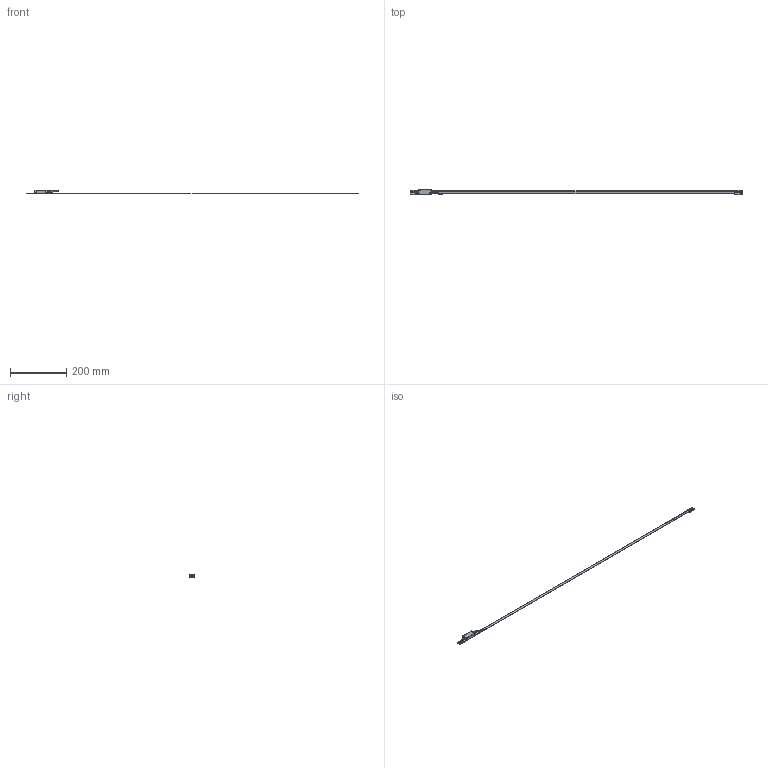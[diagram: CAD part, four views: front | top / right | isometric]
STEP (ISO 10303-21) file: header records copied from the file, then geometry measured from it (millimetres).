
FILE_DESCRIPTION(('Creo Elements/Direct Modeling STEP Export'),'2;1');
FILE_NAME('EXAA-1070.stp','2017-01-11T17:12:18',(''),(''),'Creo Elements/Direct Modeling STEP processor for AP214 (Solid Model)','Creo Elements/Direct Modeling 18.1H 24-Oct-2015 (C) Parametric Technology GmbH','');
FILE_SCHEMA(('AUTOMOTIVE_DESIGN { 1 0 10303 214 1 1 1 1 }'));
Length unit declared in the file: millimetre
Products named in the file (7): CABEZA_EXPOSED; FLEJE_REGLA_EXPOSED_1070; TOPE_FLEJE_PEGADO.1; TOPE_FLEJE_PEGADO
Assembly tree (4 placements, depth 2):
  CABEZA_EXPOSED
    CABEZA_EXPOSED
  FLEJE_REGLA_EXPOSED_1070
    FLEJE_REGLA_EXPOSED_1070
  TOPE_FLEJE_PEGADO
    TOPE_FLEJE_PEGADO.1
  TOPE_FLEJE_PEGADO.1
    TOPE_FLEJE_PEGADO.1
Bounding box: 1176 x 20.7 x 13.1 mm (x, y, z)
Volume: 16550 mm3; surface area: 30707.3 mm2
Topology: 4 solids, 10 shells, 929 faces, 2589 edges, 1700 vertices
Faces by surface type: plane 741, cylinder 130, cone 46, torus 12
Entity records: 18785 total; most frequent: CARTESIAN_POINT 3390, ORIENTED_EDGE 3200, DIRECTION 2779, EDGE_CURVE 1600, VECTOR 1279, LINE 1279, VERTEX_POINT 1046, AXIS2_PLACEMENT_3D 750
